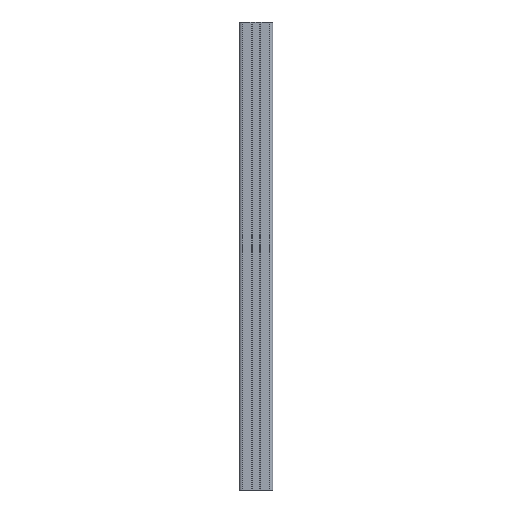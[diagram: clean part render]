
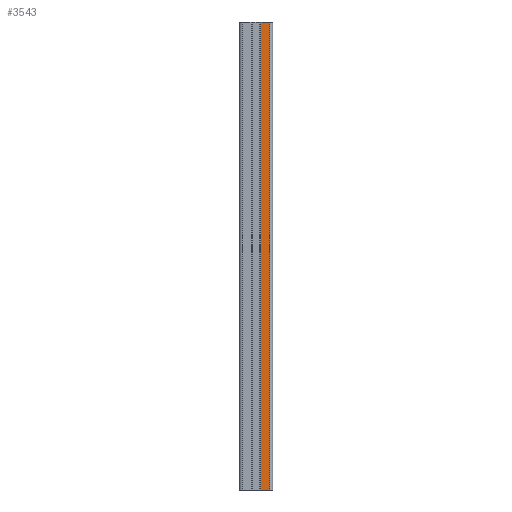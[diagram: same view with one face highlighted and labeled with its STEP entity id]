
A CAD part, left-side view. The second image highlights one B-rep face of the part: STEP entity #3543.
In plain terms, the highlighted planar face has unit normal (-1, 0, 0).
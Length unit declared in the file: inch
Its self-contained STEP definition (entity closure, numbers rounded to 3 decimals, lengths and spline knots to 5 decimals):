
#20=PLANE('',#3744);
#115=LINE('',#5230,#483);
#116=LINE('',#5232,#484);
#117=LINE('',#5234,#485);
#118=LINE('',#5236,#486);
#483=VECTOR('',#4120,39.37008);
#484=VECTOR('',#4123,39.37008);
#485=VECTOR('',#4124,39.37008);
#486=VECTOR('',#4125,39.37008);
#854=ORIENTED_EDGE('',*,*,#1958,.F.);
#855=ORIENTED_EDGE('',*,*,#1957,.F.);
#856=ORIENTED_EDGE('',*,*,#1959,.T.);
#857=ORIENTED_EDGE('',*,*,#1960,.T.);
#1957=EDGE_CURVE('',#2509,#2507,#115,.T.);
#1958=EDGE_CURVE('',#2507,#2510,#116,.T.);
#1959=EDGE_CURVE('',#2509,#2511,#117,.T.);
#1960=EDGE_CURVE('',#2511,#2510,#118,.T.);
#2507=VERTEX_POINT('',#5225);
#2509=VERTEX_POINT('',#5229);
#2510=VERTEX_POINT('',#5233);
#2511=VERTEX_POINT('',#5235);
#3059=EDGE_LOOP('',(#854,#855,#856,#857));
#3255=FACE_BOUND('',#3059,.T.);
#3543=ADVANCED_FACE('',(#3255),#20,.T.);
#3744=AXIS2_PLACEMENT_3D('',#5231,#4121,#4122);
#4120=DIRECTION('',(0.,0.,1.));
#4121=DIRECTION('',(-1.,0.,0.));
#4122=DIRECTION('',(0.,0.,1.));
#4123=DIRECTION('',(0.,-1.,0.));
#4124=DIRECTION('',(0.,-1.,0.));
#4125=DIRECTION('',(0.,0.,1.));
#5225=CARTESIAN_POINT('',(-0.75,-0.222,0.));
#5229=CARTESIAN_POINT('',(-0.75,-0.222,-21.));
#5230=CARTESIAN_POINT('',(-0.75,-0.222,-21.));
#5231=CARTESIAN_POINT('',(-0.75,-0.222,-21.));
#5232=CARTESIAN_POINT('',(-0.75,-0.222,0.));
#5233=CARTESIAN_POINT('',(-0.75,-0.625,0.));
#5234=CARTESIAN_POINT('',(-0.75,-0.222,-21.));
#5235=CARTESIAN_POINT('',(-0.75,-0.625,-21.));
#5236=CARTESIAN_POINT('',(-0.75,-0.625,-21.));
